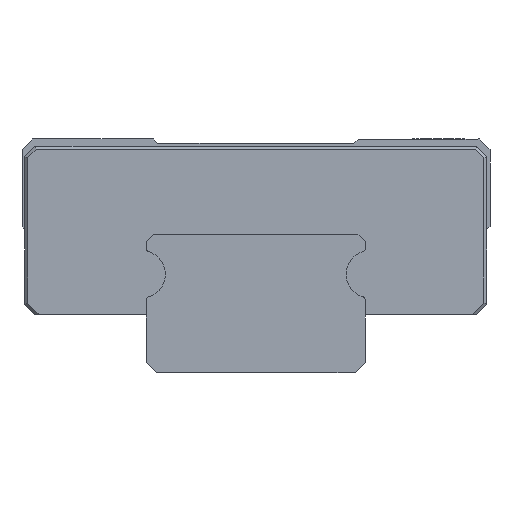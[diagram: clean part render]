
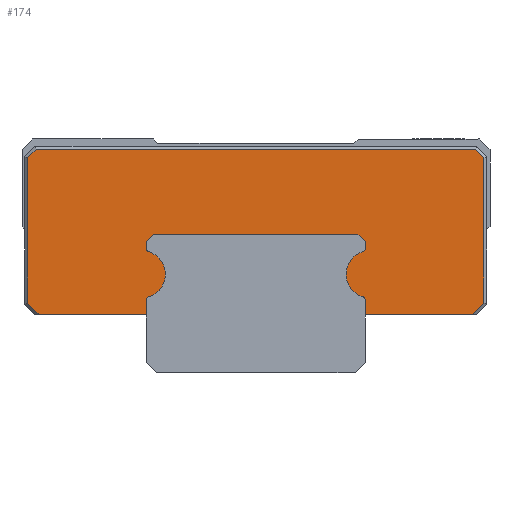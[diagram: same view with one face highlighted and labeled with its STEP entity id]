
A CAD part, front view. The second image highlights one B-rep face of the part: STEP entity #174.
In plain terms, the highlighted planar face has unit normal (0, -1, 0).
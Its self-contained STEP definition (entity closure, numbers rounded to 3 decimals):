
#174 = ADVANCED_FACE( '', ( #346 ), #347, .F. );
#346 = FACE_OUTER_BOUND( '', #594, .T. );
#347 = PLANE( '', #595 );
#594 = EDGE_LOOP( '', ( #1151, #1152, #1153, #1154, #1155, #1156, #1157, #1158, #1159, #1160, #1161, #1162, #1163, #1164, #1165, #1166, #1167, #1168, #1169, #1170, #1171, #1172 ) );
#595 = AXIS2_PLACEMENT_3D( '', #1173, #1174, #1175 );
#1151 = ORIENTED_EDGE( '', *, *, #1778, .T. );
#1152 = ORIENTED_EDGE( '', *, *, #1841, .T. );
#1153 = ORIENTED_EDGE( '', *, *, #1842, .T. );
#1154 = ORIENTED_EDGE( '', *, *, #1843, .T. );
#1155 = ORIENTED_EDGE( '', *, *, #1844, .T. );
#1156 = ORIENTED_EDGE( '', *, *, #1845, .T. );
#1157 = ORIENTED_EDGE( '', *, *, #1846, .T. );
#1158 = ORIENTED_EDGE( '', *, *, #1847, .T. );
#1159 = ORIENTED_EDGE( '', *, *, #1716, .T. );
#1160 = ORIENTED_EDGE( '', *, *, #1818, .T. );
#1161 = ORIENTED_EDGE( '', *, *, #1816, .T. );
#1162 = ORIENTED_EDGE( '', *, *, #1814, .T. );
#1163 = ORIENTED_EDGE( '', *, *, #1811, .T. );
#1164 = ORIENTED_EDGE( '', *, *, #1832, .T. );
#1165 = ORIENTED_EDGE( '', *, *, #1830, .T. );
#1166 = ORIENTED_EDGE( '', *, *, #1809, .T. );
#1167 = ORIENTED_EDGE( '', *, *, #1829, .T. );
#1168 = ORIENTED_EDGE( '', *, *, #1827, .T. );
#1169 = ORIENTED_EDGE( '', *, *, #1825, .T. );
#1170 = ORIENTED_EDGE( '', *, *, #1823, .T. );
#1171 = ORIENTED_EDGE( '', *, *, #1821, .T. );
#1172 = ORIENTED_EDGE( '', *, *, #1819, .T. );
#1173 = CARTESIAN_POINT( '', ( -4572.217, -615.517, -11.1 ) );
#1174 = DIRECTION( '', ( 0., 1., 0. ) );
#1175 = DIRECTION( '', ( 1., 0., 0. ) );
#1716 = EDGE_CURVE( '', #2045, #2043, #2046, .T. );
#1778 = EDGE_CURVE( '', #2149, #2147, #2150, .T. );
#1809 = EDGE_CURVE( '', #2204, #2202, #2205, .T. );
#1811 = EDGE_CURVE( '', #2207, #2208, #2209, .T. );
#1814 = EDGE_CURVE( '', #2212, #2207, #2213, .T. );
#1816 = EDGE_CURVE( '', #2215, #2212, #2216, .T. );
#1818 = EDGE_CURVE( '', #2043, #2215, #2218, .T. );
#1819 = EDGE_CURVE( '', #2219, #2149, #2220, .T. );
#1821 = EDGE_CURVE( '', #2222, #2219, #2223, .T. );
#1823 = EDGE_CURVE( '', #2225, #2222, #2226, .T. );
#1825 = EDGE_CURVE( '', #2228, #2225, #2229, .T. );
#1827 = EDGE_CURVE( '', #2231, #2228, #2232, .T. );
#1829 = EDGE_CURVE( '', #2202, #2231, #2234, .T. );
#1830 = EDGE_CURVE( '', #2235, #2204, #2236, .T. );
#1832 = EDGE_CURVE( '', #2208, #2235, #2238, .T. );
#1841 = EDGE_CURVE( '', #2147, #2251, #2252, .T. );
#1842 = EDGE_CURVE( '', #2251, #2253, #2254, .T. );
#1843 = EDGE_CURVE( '', #2253, #2255, #2256, .T. );
#1844 = EDGE_CURVE( '', #2255, #2257, #2258, .T. );
#1845 = EDGE_CURVE( '', #2257, #2259, #2260, .T. );
#1846 = EDGE_CURVE( '', #2259, #2261, #2262, .T. );
#1847 = EDGE_CURVE( '', #2261, #2045, #2263, .T. );
#2043 = VERTEX_POINT( '', #2558 );
#2045 = VERTEX_POINT( '', #2561 );
#2046 = LINE( '', #2562, #2563 );
#2147 = VERTEX_POINT( '', #2720 );
#2149 = VERTEX_POINT( '', #2723 );
#2150 = LINE( '', #2724, #2725 );
#2202 = VERTEX_POINT( '', #2800 );
#2204 = VERTEX_POINT( '', #2803 );
#2205 = LINE( '', #2804, #2805 );
#2207 = VERTEX_POINT( '', #2808 );
#2208 = VERTEX_POINT( '', #2809 );
#2209 = CIRCLE( '', #2810, 0.3 );
#2212 = VERTEX_POINT( '', #2815 );
#2213 = CIRCLE( '', #2816, 1.613 );
#2215 = VERTEX_POINT( '', #2819 );
#2216 = CIRCLE( '', #2820, 0.3 );
#2218 = LINE( '', #2823, #2824 );
#2219 = VERTEX_POINT( '', #2825 );
#2220 = LINE( '', #2826, #2827 );
#2222 = VERTEX_POINT( '', #2830 );
#2223 = CIRCLE( '', #2831, 0.3 );
#2225 = VERTEX_POINT( '', #2834 );
#2226 = CIRCLE( '', #2835, 1.613 );
#2228 = VERTEX_POINT( '', #2838 );
#2229 = CIRCLE( '', #2839, 0.3 );
#2231 = VERTEX_POINT( '', #2842 );
#2232 = LINE( '', #2843, #2844 );
#2234 = LINE( '', #2847, #2848 );
#2235 = VERTEX_POINT( '', #2849 );
#2236 = LINE( '', #2850, #2851 );
#2238 = LINE( '', #2854, #2855 );
#2251 = VERTEX_POINT( '', #2876 );
#2252 = LINE( '', #2877, #2878 );
#2253 = VERTEX_POINT( '', #2879 );
#2254 = LINE( '', #2880, #2881 );
#2255 = VERTEX_POINT( '', #2882 );
#2256 = LINE( '', #2883, #2884 );
#2257 = VERTEX_POINT( '', #2885 );
#2258 = LINE( '', #2886, #2887 );
#2259 = VERTEX_POINT( '', #2888 );
#2260 = LINE( '', #2889, #2890 );
#2261 = VERTEX_POINT( '', #2891 );
#2262 = LINE( '', #2892, #2893 );
#2263 = LINE( '', #2894, #2895 );
#2558 = CARTESIAN_POINT( '', ( -4579.704, -615.517, 4. ) );
#2561 = CARTESIAN_POINT( '', ( -4587.034, -615.517, 4. ) );
#2562 = CARTESIAN_POINT( '', ( -4587.317, -615.517, 4. ) );
#2563 = VECTOR( '', #3224, 1. );
#2720 = CARTESIAN_POINT( '', ( -4557.4, -615.517, 4. ) );
#2723 = CARTESIAN_POINT( '', ( -4564.729, -615.517, 4. ) );
#2724 = CARTESIAN_POINT( '', ( -4587.317, -615.517, 4. ) );
#2725 = VECTOR( '', #3294, 1. );
#2800 = CARTESIAN_POINT( '', ( -4565.229, -615.517, 9.5 ) );
#2803 = CARTESIAN_POINT( '', ( -4579.204, -615.517, 9.5 ) );
#2804 = CARTESIAN_POINT( '', ( -4572.217, -615.517, 9.5 ) );
#2805 = VECTOR( '', #3337, 1. );
#2808 = CARTESIAN_POINT( '', ( -4579.5, -615.517, 8.278 ) );
#2809 = CARTESIAN_POINT( '', ( -4579.704, -615.517, 8.563 ) );
#2810 = AXIS2_PLACEMENT_3D( '', #3339, #3340, #3341 );
#2815 = CARTESIAN_POINT( '', ( -4579.5, -615.517, 5.222 ) );
#2816 = AXIS2_PLACEMENT_3D( '', #3344, #3345, #3346 );
#2819 = CARTESIAN_POINT( '', ( -4579.704, -615.517, 4.937 ) );
#2820 = AXIS2_PLACEMENT_3D( '', #3348, #3349, #3350 );
#2823 = CARTESIAN_POINT( '', ( -4579.704, -615.517, -11.1 ) );
#2824 = VECTOR( '', #3352, 1. );
#2825 = CARTESIAN_POINT( '', ( -4564.729, -615.517, 4.937 ) );
#2826 = CARTESIAN_POINT( '', ( -4564.729, -615.517, -11.1 ) );
#2827 = VECTOR( '', #3353, 1. );
#2830 = CARTESIAN_POINT( '', ( -4564.933, -615.517, 5.222 ) );
#2831 = AXIS2_PLACEMENT_3D( '', #3355, #3356, #3357 );
#2834 = CARTESIAN_POINT( '', ( -4564.933, -615.517, 8.278 ) );
#2835 = AXIS2_PLACEMENT_3D( '', #3359, #3360, #3361 );
#2838 = CARTESIAN_POINT( '', ( -4564.729, -615.517, 8.563 ) );
#2839 = AXIS2_PLACEMENT_3D( '', #3363, #3364, #3365 );
#2842 = CARTESIAN_POINT( '', ( -4564.729, -615.517, 9. ) );
#2843 = CARTESIAN_POINT( '', ( -4564.729, -615.517, -11.1 ) );
#2844 = VECTOR( '', #3367, 1. );
#2847 = CARTESIAN_POINT( '', ( -4558.423, -615.517, 2.694 ) );
#2848 = VECTOR( '', #3369, 1. );
#2849 = CARTESIAN_POINT( '', ( -4579.704, -615.517, 9. ) );
#2850 = CARTESIAN_POINT( '', ( -4586.01, -615.517, 2.694 ) );
#2851 = VECTOR( '', #3370, 1. );
#2854 = CARTESIAN_POINT( '', ( -4579.704, -615.517, -11.1 ) );
#2855 = VECTOR( '', #3372, 1. );
#2876 = CARTESIAN_POINT( '', ( -4556.617, -615.517, 4.783 ) );
#2877 = CARTESIAN_POINT( '', ( -4572.358, -615.517, -10.959 ) );
#2878 = VECTOR( '', #3381, 1. );
#2879 = CARTESIAN_POINT( '', ( -4556.617, -615.517, 14.717 ) );
#2880 = CARTESIAN_POINT( '', ( -4556.617, -615.517, -11.1 ) );
#2881 = VECTOR( '', #3382, 1. );
#2882 = CARTESIAN_POINT( '', ( -4557.2, -615.517, 15.3 ) );
#2883 = CARTESIAN_POINT( '', ( -4551.508, -615.517, 9.609 ) );
#2884 = VECTOR( '', #3383, 1. );
#2885 = CARTESIAN_POINT( '', ( -4587.234, -615.517, 15.3 ) );
#2886 = CARTESIAN_POINT( '', ( -4572.217, -615.517, 15.3 ) );
#2887 = VECTOR( '', #3384, 1. );
#2888 = CARTESIAN_POINT( '', ( -4587.817, -615.517, 14.717 ) );
#2889 = CARTESIAN_POINT( '', ( -4592.925, -615.517, 9.609 ) );
#2890 = VECTOR( '', #3385, 1. );
#2891 = CARTESIAN_POINT( '', ( -4587.817, -615.517, 4.783 ) );
#2892 = CARTESIAN_POINT( '', ( -4587.817, -615.517, -11.1 ) );
#2893 = VECTOR( '', #3386, 1. );
#2894 = CARTESIAN_POINT( '', ( -4572.075, -615.517, -10.959 ) );
#2895 = VECTOR( '', #3387, 1. );
#3224 = DIRECTION( '', ( 1., 0., 0. ) );
#3294 = DIRECTION( '', ( 1., 0., 0. ) );
#3337 = DIRECTION( '', ( 1., 0., 0. ) );
#3339 = CARTESIAN_POINT( '', ( -4579.404, -615.517, 8.563 ) );
#3340 = DIRECTION( '', ( 0., 1., 0. ) );
#3341 = DIRECTION( '', ( 0., 0., 1. ) );
#3344 = CARTESIAN_POINT( '', ( -4580.017, -615.517, 6.75 ) );
#3345 = DIRECTION( '', ( 0., -1., 0. ) );
#3346 = DIRECTION( '', ( 0., 0., 1. ) );
#3348 = CARTESIAN_POINT( '', ( -4579.404, -615.517, 4.937 ) );
#3349 = DIRECTION( '', ( 0., 1., 0. ) );
#3350 = DIRECTION( '', ( 0., 0., 1. ) );
#3352 = DIRECTION( '', ( 0., 0., 1. ) );
#3353 = DIRECTION( '', ( 0., 0., -1. ) );
#3355 = CARTESIAN_POINT( '', ( -4565.029, -615.517, 4.937 ) );
#3356 = DIRECTION( '', ( 0., 1., 0. ) );
#3357 = DIRECTION( '', ( 0., 0., 1. ) );
#3359 = CARTESIAN_POINT( '', ( -4564.417, -615.517, 6.75 ) );
#3360 = DIRECTION( '', ( 0., -1., 0. ) );
#3361 = DIRECTION( '', ( 0., 0., 1. ) );
#3363 = CARTESIAN_POINT( '', ( -4565.029, -615.517, 8.563 ) );
#3364 = DIRECTION( '', ( 0., 1., 0. ) );
#3365 = DIRECTION( '', ( 0., 0., 1. ) );
#3367 = DIRECTION( '', ( 0., 0., -1. ) );
#3369 = DIRECTION( '', ( 0.707, 0., -0.707 ) );
#3370 = DIRECTION( '', ( 0.707, 0., 0.707 ) );
#3372 = DIRECTION( '', ( 0., 0., 1. ) );
#3381 = DIRECTION( '', ( 0.707, 0., 0.707 ) );
#3382 = DIRECTION( '', ( 0., 0., 1. ) );
#3383 = DIRECTION( '', ( -0.707, 0., 0.707 ) );
#3384 = DIRECTION( '', ( -1., 0., 0. ) );
#3385 = DIRECTION( '', ( -0.707, 0., -0.707 ) );
#3386 = DIRECTION( '', ( 0., 0., -1. ) );
#3387 = DIRECTION( '', ( 0.707, 0., -0.707 ) );
